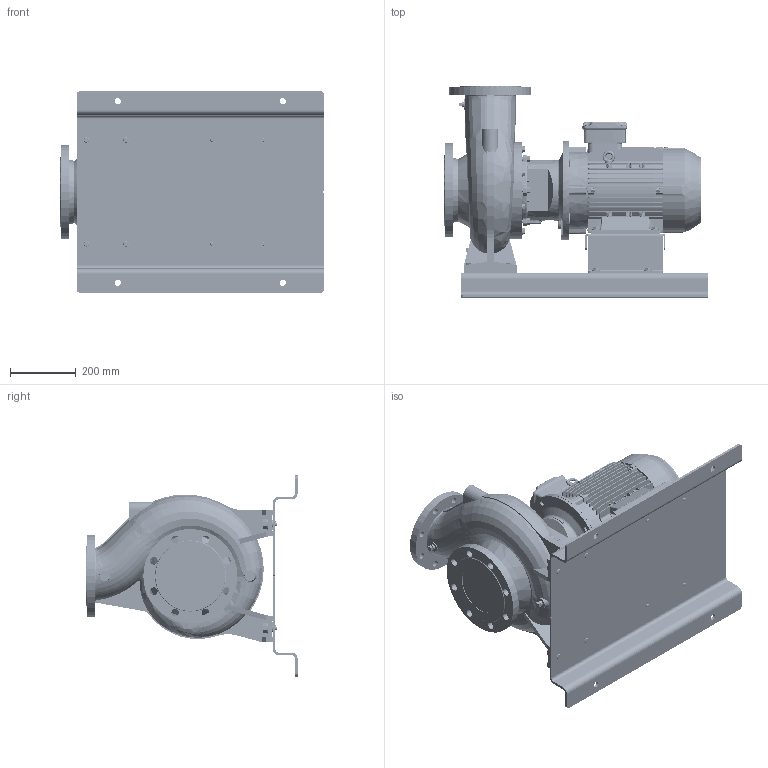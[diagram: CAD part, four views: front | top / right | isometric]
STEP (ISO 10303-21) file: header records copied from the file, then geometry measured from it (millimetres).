
FILE_DESCRIPTION (( 'STEP AP214' ), '1' );
FILE_NAME ('GSD4 125-200_7.5_(132M)_W21_BP.STEP', '2026-05-08T05:03:12', ( '' ), ( '' ), 'SwSTEP 2.0', 'SolidWorks 2024', '' );
FILE_SCHEMA (( 'AUTOMOTIVE_DESIGN' ));
Length unit declared in the file: millimetre
Products named in the file (13): 132M ALIE3_W21T_B35; Parametric bolt and washer_SFT-A249B; 140_178 x 118 BP - CGSDA-5245; 125-200-132M_ﾃﾞﾌｫﾙﾄ; Parametric Flat Washer_M16; Parametric bolt_SFT-A351B; GSD4 125-200_7.5_(132M)_W21_BP; Parametric bolt_SFT-A249B; Parametric bolt and washer_SFT-A253B; N7S6 GSDA-763 F1-1832943-00; Parametric bolt_SFT-A253B; Parametric Flat Washer_M10; Parametric bolt and washer_SFT-A351B
Assembly tree (22 placements, depth 3):
  GSD4 125-200_7.5_(132M)_W21_BP
    125-200-132M_ﾃﾞﾌｫﾙﾄ
    N7S6 GSDA-763 F1-1832943-00
    140_178 x 118 BP - CGSDA-5245
    Parametric bolt and washer_SFT-A351B  x4
      Parametric bolt_SFT-A351B
      Parametric Flat Washer_M16
    Parametric bolt and washer_SFT-A249B  x4
      Parametric bolt_SFT-A249B
      Parametric Flat Washer_M10
    Parametric bolt and washer_SFT-A253B  x4
      Parametric bolt_SFT-A253B
      Parametric Flat Washer_M10
    132M ALIE3_W21T_B35
Bounding box: 800 x 640 x 610 mm (x, y, z)
Volume: 51643942.7 mm3; surface area: 3731657.5 mm2
Topology: 32 solids, 32 shells, 5214 faces, 13539 edges, 8739 vertices
Faces by surface type: plane 2992, cylinder 1319, torus 307, bspline 294, cone 270, sphere 32
Entity records: 192082 total; most frequent: CARTESIAN_POINT 78685, ORIENTED_EDGE 24504, DIRECTION 21934, EDGE_CURVE 12252, LINE 7988, VECTOR 7988, VERTEX_POINT 7920, AXIS2_PLACEMENT_3D 6973
